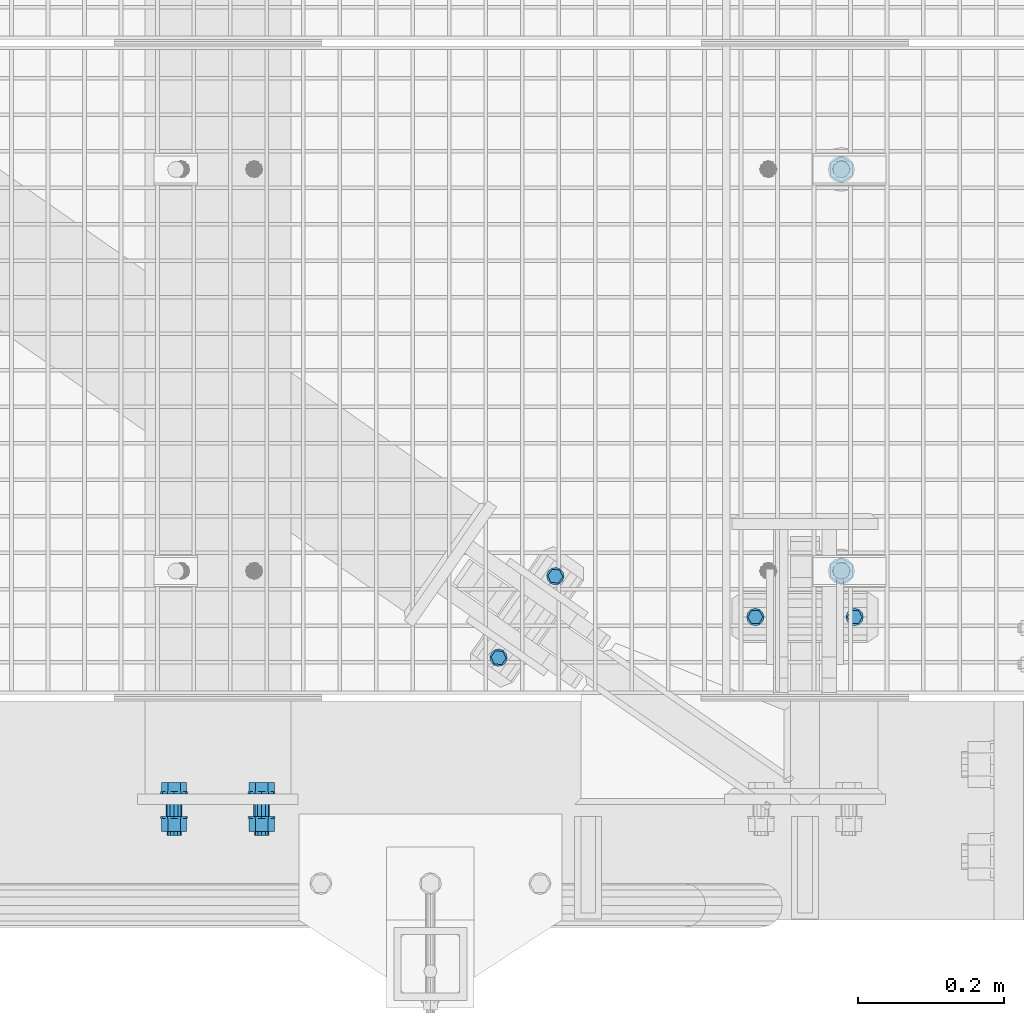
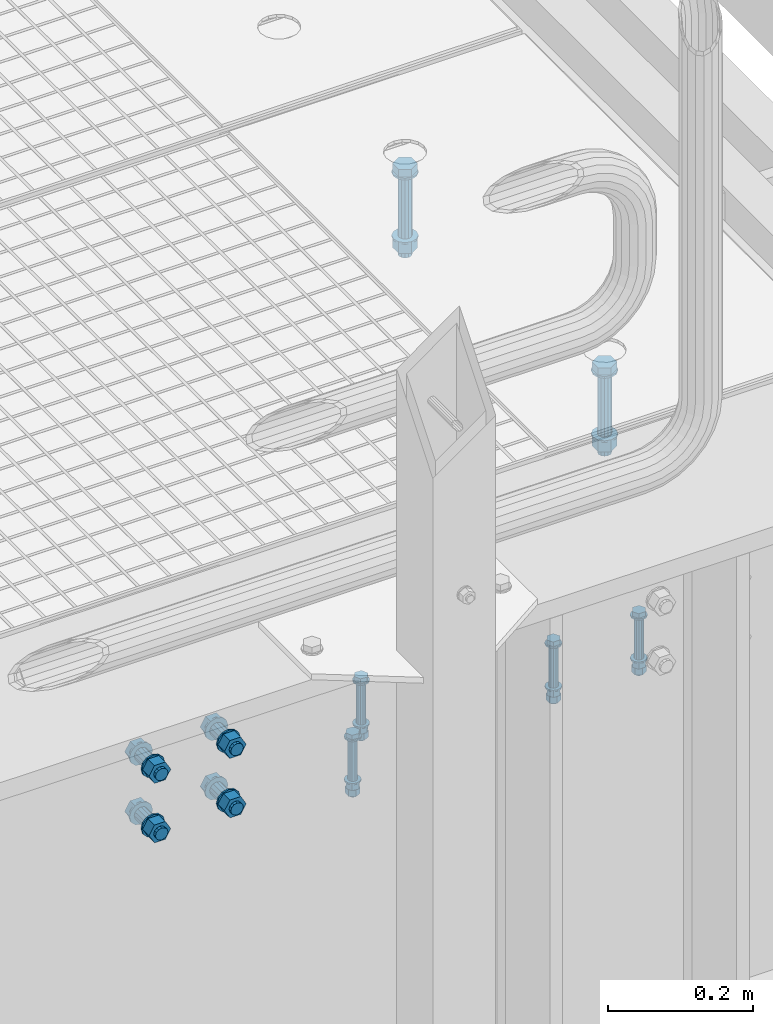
# One storey, part 49 of 1530: 4 mechanical fasteners.
"""IFC2X3 building model written with IfcOpenShell, lengths in millimetres."""

import ifcopenshell
import ifcopenshell.guid

model = None  # the IFC model being written
_history = None  # IfcOwnerHistory: only IFC2X3 demands one
_inside = {}  # id of a spatial element -> (the spatial element, [elements in it])
_under = {}  # id of a project, library or spatial element -> (it, [spatial elements below it])
_declared = {}  # id of a project -> (the project, [libraries it declares])
_typed = {}  # id of a type object -> (the type object, [elements of that type])
_made_of = {}  # id of a material, layer set ... -> (it, [elements and type objects made of it])


def new_model(schema):
    """Start an empty IFC model of exactly this schema.

    Asked for "IFC4X3", IfcOpenShell would pick the latest addendum, in which some entities
    have other attributes; the version numbers below select the first issue.
    IFC2X3 requires an IfcOwnerHistory on every rooted entity: one is made here for all.
    """
    global model, _history
    if schema == "IFC4X3":
        model = ifcopenshell.file(schema_version=(4, 3, 0, 0))
    else:
        model = ifcopenshell.file(schema=schema)
    _inside.clear()
    _under.clear()
    _declared.clear()
    _typed.clear()
    _made_of.clear()
    _history = None
    if model.schema == "IFC2X3":
        org = make("IfcOrganization", Name="unknown")
        user = make(
            "IfcPersonAndOrganization",
            ThePerson=make("IfcPerson", FamilyName="unknown"),
            TheOrganization=org,
        )
        app = make(
            "IfcApplication",
            ApplicationDeveloper=org,
            Version="unknown",
            ApplicationFullName="unknown",
            ApplicationIdentifier="unknown",
        )
        _history = make(
            "IfcOwnerHistory",
            OwningUser=user,
            OwningApplication=app,
            ChangeAction="ADDED",
            CreationDate=0,
        )
    return model


def make(cls, **values):
    """One entity of the class cls with the attributes given. An attribute that is None is left unset."""
    return model.create_entity(
        cls, **{name: value for name, value in values.items() if value is not None}
    )


def rooted(cls, **values):
    """An entity with a GlobalId (a new one), such as an element, a storey or a relation."""
    return make(cls, GlobalId=ifcopenshell.guid.new(), OwnerHistory=_history, **values)


def si_unit(unit_type, name, prefix=None):
    """IfcSIUnit, for example si_unit("LENGTHUNIT", "METRE", prefix="MILLI")."""
    return make("IfcSIUnit", UnitType=unit_type, Prefix=prefix, Name=name)


def assignment(units):
    """IfcUnitAssignment: the units of a project."""
    return None if units is None else make("IfcUnitAssignment", Units=units)


def point(xyz):
    """IfcCartesianPoint."""
    return None if xyz is None else make("IfcCartesianPoint", Coordinates=xyz)


def direction(xyz):
    """IfcDirection."""
    return None if xyz is None else make("IfcDirection", DirectionRatios=xyz)


def frame(location, z_axis=None, x_axis=None):
    """IfcAxis2Placement3D, a coordinate frame: its origin and axes. An axis left out is left unset."""
    return make(
        "IfcAxis2Placement3D",
        Location=point(location),
        Axis=direction(z_axis),
        RefDirection=direction(x_axis),
    )


def origin_with_axes():
    """The frame at (0, 0, 0) with the z axis (0, 0, 1) and the x axis (1, 0, 0) written out."""
    return frame((0.0, 0.0, 0.0), z_axis=(0.0, 0.0, 1.0), x_axis=(1.0, 0.0, 0.0))


def place(relative_to, where):
    """IfcLocalPlacement: puts the frame where relative to a parent placement (None: the world)."""
    return make(
        "IfcLocalPlacement", PlacementRelTo=relative_to, RelativePlacement=where
    )


def context(
    kind, dimensions, precision=None, world=None, true_north=None, identifier=None
):
    """IfcGeometricRepresentationContext, for example the 3D "Model" context."""
    return make(
        "IfcGeometricRepresentationContext",
        ContextIdentifier=identifier,
        ContextType=kind,
        CoordinateSpaceDimension=dimensions,
        Precision=precision,
        WorldCoordinateSystem=world,
        TrueNorth=true_north,
    )


def subcontext(parent, identifier, kind, view, scale=None):
    """IfcGeometricRepresentationSubContext, for example "Body" below "Model"."""
    return make(
        "IfcGeometricRepresentationSubContext",
        ContextIdentifier=identifier,
        ContextType=kind,
        ParentContext=parent,
        TargetScale=scale,
        TargetView=view,
    )


def project(units=None, contexts=None):
    """IfcProject with its units and contexts."""
    return rooted(
        "IfcProject",
        Name="project",
        RepresentationContexts=contexts,
        UnitsInContext=assignment(units),
    )


def spatial(cls, under=None, at=None, **own):
    """A site, building, storey or space (cls), placed at a placement, below another one or the project."""
    s = rooted(cls, ObjectPlacement=at, **own)
    if under is not None:
        _under.setdefault(under.id(), (under, []))[1].append(s)
    return s


def faces_of(points, faces, orient=None, outer=None):
    """IfcFace entities. A face is a list of loops; a loop is a list of indices into points, from 0.

    orient and outer hold one flag for each loop. By default every Orientation is true, the
    first loop of a face is its IfcFaceOuterBound and the others are IfcFaceBound.
    """
    made = []
    for i, loops in enumerate(faces):
        bounds = []
        for j, loop in enumerate(loops):
            is_outer = j == 0 if outer is None else outer[i][j]
            bounds.append(
                make(
                    "IfcFaceOuterBound" if is_outer else "IfcFaceBound",
                    Bound=make("IfcPolyLoop", Polygon=[points[k] for k in loop]),
                    Orientation=True if orient is None else orient[i][j],
                )
            )
        made.append(make("IfcFace", Bounds=bounds))
    return made


def faceted_brep(points, faces, orient=None, outer=None, voids=None):
    """IfcFacetedBrep: a solid bounded by flat faces; with voids (closed shells), ...WithVoids."""
    shared = [point(p) for p in points]
    hull = make("IfcClosedShell", CfsFaces=faces_of(shared, faces, orient, outer))
    if voids is None:
        return make("IfcFacetedBrep", Outer=hull)
    return make(
        "IfcFacetedBrepWithVoids",
        Outer=hull,
        Voids=[
            make(cls, CfsFaces=faces_of(shared, fs, o, b)) for cls, fs, o, b in voids
        ],
    )


def shape(context_of_items, identifier, shape_type, items):
    """IfcShapeRepresentation: the items that make up one representation, for example the "Body"."""
    return make(
        "IfcShapeRepresentation",
        ContextOfItems=context_of_items,
        RepresentationIdentifier=identifier,
        RepresentationType=shape_type,
        Items=items,
    )


def source(mapping_origin, context_of_items, identifier, shape_type, items):
    """IfcRepresentationMap: a shape defined once, which mapped items show again and again."""
    return make(
        "IfcRepresentationMap",
        MappingOrigin=mapping_origin,
        MappedRepresentation=shape(context_of_items, identifier, shape_type, items),
    )


def transform(
    local_origin,
    x_axis=None,
    y_axis=None,
    z_axis=None,
    scale=None,
    scale2=None,
    scale3=None,
    uniform=True,
):
    """IfcCartesianTransformationOperator3D, or its non-uniform kind. x_axis, y_axis, z_axis: its Axis1, 2, 3."""
    if uniform:
        return make(
            "IfcCartesianTransformationOperator3D",
            Axis1=direction(x_axis),
            Axis2=direction(y_axis),
            LocalOrigin=point(local_origin),
            Scale=scale,
            Axis3=direction(z_axis),
        )
    return make(
        "IfcCartesianTransformationOperator3DnonUniform",
        Axis1=direction(x_axis),
        Axis2=direction(y_axis),
        LocalOrigin=point(local_origin),
        Scale=scale,
        Axis3=direction(z_axis),
        Scale2=scale2,
        Scale3=scale3,
    )


def mapped(mapping_source, mapping_target):
    """IfcMappedItem: shows the shape of a source again, moved by a transform."""
    return make(
        "IfcMappedItem", MappingSource=mapping_source, MappingTarget=mapping_target
    )


def material(Name=None, Category=None):
    """IfcMaterial."""
    return make("IfcMaterial", Name=Name, Category=Category)


def made_of(thing, what):
    """Note that an element or type object is made of a material, layer set ...; save() writes the relation."""
    if what is not None:
        _made_of.setdefault(what.id(), (what, []))[1].append(thing)
    return thing


def type_object(cls, material=None, **own):
    """A type object (cls), such as IfcWallType, which elements share."""
    return made_of(rooted(cls, **own), material)


def element(
    cls,
    number,
    at=None,
    inside=None,
    cuts=None,
    type_object=None,
    material=None,
    context=None,
    identifier="Body",
    shape_type=None,
    held_by="IfcProductDefinitionShape",
    body=None,
    shapes=None,
    **own,
):
    """One element of the class cls, such as IfcWall. Its Tag is "e" and its number.

    at: its placement. inside: the storey or other place that contains it. cuts: it is an
    opening in that element (IfcRelVoidsElement). A single representation is given by context,
    identifier, shape_type and body (its items); several are given by shapes. held_by: the class
    of the entity that holds the representations. save() writes the other relations.
    """
    e = rooted(cls, Tag="e%d" % number, ObjectPlacement=at, **own)
    if body is not None:
        shapes = [shape(context, identifier, shape_type, body)]
    if shapes is not None:
        e.Representation = make(held_by, Representations=shapes)
    if inside is not None:
        _inside.setdefault(inside.id(), (inside, []))[1].append(e)
    if cuts is not None:
        rooted(
            "IfcRelVoidsElement", RelatingBuildingElement=cuts, RelatedOpeningElement=e
        )
    if type_object is not None:
        _typed.setdefault(type_object.id(), (type_object, []))[1].append(e)
    return made_of(e, material)


def aggregate(whole, parts):
    """IfcRelAggregates: a whole, such as a stair, and the parts it consists of."""
    return rooted("IfcRelAggregates", RelatingObject=whole, RelatedObjects=parts)


def save(model, path):
    """Write the relations noted so far, then the file.

    IfcRelAggregates (storeys below a building ...), IfcRelContainedInSpatialStructure (elements
    in a storey), IfcRelDefinesByType, IfcRelAssociatesMaterial and IfcRelDeclares: one each for
    every whole, place, type object, material and project.
    """
    for whole, parts in _under.values():
        aggregate(whole, parts)
    for where, things in _inside.values():
        rooted(
            "IfcRelContainedInSpatialStructure",
            RelatedElements=things,
            RelatingStructure=where,
        )
    for kind, things in _typed.values():
        rooted("IfcRelDefinesByType", RelatedObjects=things, RelatingType=kind)
    for what, things in _made_of.values():
        rooted("IfcRelAssociatesMaterial", RelatedObjects=things, RelatingMaterial=what)
    for by, libraries in _declared.values():
        rooted("IfcRelDeclares", RelatingContext=by, RelatedDefinitions=libraries)
    model.write(path)


model = new_model("IFC2X3")

# Units and contexts
model_context = context("Model", 3, precision=1e-05, world=origin_with_axes())
body_context = subcontext(model_context, "Body", "Model", "MODEL_VIEW")
ifc_project = project(units=[si_unit("LENGTHUNIT", "METRE", prefix="MILLI"), si_unit("AREAUNIT", "SQUARE_METRE"), si_unit("VOLUMEUNIT", "CUBIC_METRE"), si_unit("MASSUNIT", "GRAM", prefix="KILO"), si_unit("TIMEUNIT", "SECOND"), si_unit("PLANEANGLEUNIT", "RADIAN"), si_unit("SOLIDANGLEUNIT", "STERADIAN"), si_unit("THERMODYNAMICTEMPERATUREUNIT", "DEGREE_CELSIUS"), si_unit("LUMINOUSINTENSITYUNIT", "LUMEN")], contexts=[model_context])

# Site, building, storey
site_placement = place(None, origin_with_axes())
site = spatial("IfcSite", under=ifc_project, at=site_placement, Name="Brattvåg", CompositionType="ELEMENT")
building_placement = place(site_placement, origin_with_axes())
building = spatial("IfcBuilding", under=site, at=building_placement, Name="Undefined", CompositionType="ELEMENT")
storey_placement = place(building_placement, origin_with_axes())
storey = spatial("IfcBuildingStorey", under=building, at=storey_placement, Name="Undefined", CompositionType="ELEMENT", Elevation=0.0)

# Mechanical fasteners
ifc_material = material(Name="8")
mechanical_fastener_type = type_object("IfcMechanicalFastenerType", Name="Bolt assembly")
shared_shape_1 = source(origin_with_axes(), body_context, "Body", "Brep", [
    faceted_brep([(10.3923048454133, -9.99999999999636, 0.0), (5.19615242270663, -9.99999999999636, 9.0), (-5.19615242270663, -9.99999999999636, 9.0), (-10.3923048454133, -9.99999999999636, 1.27269028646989e-15), (-5.19615242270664, -9.99999999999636, -9.0), (5.19615242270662, -9.99999999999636, -9.0), (5.19615242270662, -2.49999999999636, -9.0), (-5.19615242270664, -2.49999999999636, -9.0), (-10.3923048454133, -2.49999999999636, 1.27269028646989e-15), (-5.19615242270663, -2.49999999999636, 9.0), (5.19615242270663, -2.49999999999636, 9.0), (10.3923048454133, -2.49999999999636, 0.0), (6.0, -2.49999999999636, 0.0), (5.19615242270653, -2.49999999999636, 3.00000000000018), (2.99999999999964, -2.49999999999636, 5.19615242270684), (-6.21801588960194e-13, -2.49999999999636, 6.0), (-3.00000000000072, -2.49999999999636, 5.19615242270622), (-5.19615242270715, -2.49999999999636, 2.9999999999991), (-6.0, -2.49999999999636, -1.24360317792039e-12), (-5.19615242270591, -2.49999999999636, -3.00000000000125), (-2.99999999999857, -2.49999999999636, -5.19615242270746), (1.85874342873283e-12, -2.49999999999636, -6.0), (3.00000000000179, -2.49999999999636, -5.1961524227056), (5.19615242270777, -2.49999999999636, -2.99999999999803), (5.19615242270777, 97.4999999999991, -2.99999999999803), (3.00000000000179, 97.4999999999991, -5.1961524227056), (1.85874342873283e-12, 97.4999999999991, -6.0), (-2.99999999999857, 97.4999999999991, -5.19615242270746), (-5.19615242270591, 97.4999999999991, -3.00000000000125), (-6.0, 97.4999999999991, -1.24360317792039e-12), (-5.19615242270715, 97.4999999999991, 2.9999999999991), (-3.00000000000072, 97.4999999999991, 5.19615242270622), (-6.21801588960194e-13, 97.4999999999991, 6.0), (2.99999999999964, 97.4999999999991, 5.19615242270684), (5.19615242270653, 97.4999999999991, 3.00000000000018), (6.0, 97.4999999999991, 0.0), (12.0, -2.49999999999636, 0.0), (10.3923048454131, -2.49999999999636, 6.00000000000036), (5.99999999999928, -2.49999999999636, 10.3923048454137), (-1.24360317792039e-12, -2.49999999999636, 12.0), (-6.00000000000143, -2.49999999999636, 10.3923048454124), (-10.3923048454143, -2.49999999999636, 5.99999999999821), (-12.0, -2.49999999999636, -2.48720635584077e-12), (-10.3923048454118, -2.49999999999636, -6.00000000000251), (-5.99999999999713, -2.49999999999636, -10.3923048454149), (3.71748685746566e-12, -2.49999999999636, -12.0), (6.00000000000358, -2.49999999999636, -10.3923048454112), (10.3923048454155, -2.49999999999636, -5.99999999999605), (10.3923048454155, 3.63797880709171e-12, -5.99999999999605), (6.00000000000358, 3.63797880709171e-12, -10.3923048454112), (3.71748685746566e-12, 3.63797880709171e-12, -12.0), (-5.99999999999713, 3.63797880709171e-12, -10.3923048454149), (-10.3923048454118, 3.63797880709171e-12, -6.00000000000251), (-12.0, 3.63797880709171e-12, -2.48720635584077e-12), (-10.3923048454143, 3.63797880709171e-12, 5.99999999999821), (-6.00000000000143, 3.63797880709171e-12, 10.3923048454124), (-1.24360317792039e-12, 3.63797880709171e-12, 12.0), (5.99999999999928, 3.63797880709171e-12, 10.3923048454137), (10.3923048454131, 3.63797880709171e-12, 6.00000000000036), (12.0, 3.63797880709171e-12, 0.0), (12.0, 69.9999999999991, 0.0), (10.3923048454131, 69.9999999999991, 6.00000000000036), (5.99999999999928, 69.9999999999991, 10.3923048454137), (-1.24360317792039e-12, 69.9999999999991, 12.0), (-6.00000000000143, 69.9999999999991, 10.3923048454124), (-10.3923048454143, 69.9999999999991, 5.99999999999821), (-12.0, 69.9999999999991, -2.48720635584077e-12), (-10.3923048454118, 69.9999999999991, -6.00000000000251), (-5.99999999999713, 69.9999999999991, -10.3923048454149), (3.71748685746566e-12, 69.9999999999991, -12.0), (6.00000000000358, 69.9999999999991, -10.3923048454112), (10.3923048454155, 69.9999999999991, -5.99999999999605), (10.3923048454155, 72.4999999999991, -5.99999999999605), (6.00000000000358, 72.4999999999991, -10.3923048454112), (3.71748685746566e-12, 72.4999999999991, -12.0), (-5.99999999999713, 72.4999999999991, -10.3923048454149), (-10.3923048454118, 72.4999999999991, -6.00000000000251), (-12.0, 72.4999999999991, -2.48720635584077e-12), (-10.3923048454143, 72.4999999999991, 5.99999999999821), (-6.00000000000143, 72.4999999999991, 10.3923048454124), (-1.24360317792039e-12, 72.4999999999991, 12.0), (5.99999999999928, 72.4999999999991, 10.3923048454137), (10.3923048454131, 72.4999999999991, 6.00000000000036), (12.0, 72.4999999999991, 0.0), (10.3923048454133, 72.4999999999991, 0.0), (5.19615242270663, 72.4999999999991, 9.0), (-5.19615242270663, 72.4999999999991, 9.0), (-10.3923048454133, 72.4999999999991, 1.27269028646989e-15), (-5.19615242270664, 72.4999999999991, -9.0), (5.19615242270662, 72.4999999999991, -9.0), (5.19615242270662, 83.300000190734, -9.0), (-5.19615242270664, 83.300000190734, -9.0), (-10.3923048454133, 83.300000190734, 1.27269028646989e-15), (-5.19615242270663, 83.300000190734, 9.0), (5.19615242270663, 83.300000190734, 9.0), (10.3923048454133, 83.300000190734, 0.0), (9.0, 83.300000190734, 5.19615242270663), (6.36345143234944e-16, 83.300000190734, 10.3923048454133), (-9.0, 83.300000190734, 5.19615242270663), (-9.0, 83.300000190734, -5.19615242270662), (-1.11392563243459e-14, 83.300000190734, -10.3923048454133), (8.99999999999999, 83.300000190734, -5.19615242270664), (8.99999999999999, 94.1000003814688, -5.19615242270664), (-1.11392563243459e-14, 94.1000003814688, -10.3923048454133), (-9.0, 94.1000003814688, -5.19615242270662), (-9.0, 94.1000003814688, 5.19615242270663), (6.36345143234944e-16, 94.1000003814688, 10.3923048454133), (9.0, 94.1000003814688, 5.19615242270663)], [[[0, 1, 2, 3, 4, 5]], [[6, 7, 8, 9, 10, 11]], [[0, 11, 10, 1]], [[1, 10, 9, 2]], [[2, 9, 8, 3]], [[3, 8, 7, 4]], [[4, 7, 6, 5]], [[5, 6, 11, 0]], [[12, 13, 14, 15, 16, 17, 18, 19, 20, 21, 22, 23]], [[24, 25, 26, 27, 28, 29, 30, 31, 32, 33, 34, 35]], [[12, 35, 34, 13]], [[13, 34, 33, 14]], [[14, 33, 32, 15]], [[15, 32, 31, 16]], [[16, 31, 30, 17]], [[17, 30, 29, 18]], [[18, 29, 28, 19]], [[19, 28, 27, 20]], [[20, 27, 26, 21]], [[21, 26, 25, 22]], [[22, 25, 24, 23]], [[23, 24, 35, 12]], [[36, 37, 38, 39, 40, 41, 42, 43, 44, 45, 46, 47]], [[48, 49, 50, 51, 52, 53, 54, 55, 56, 57, 58, 59]], [[36, 59, 58, 37]], [[37, 58, 57, 38]], [[38, 57, 56, 39]], [[39, 56, 55, 40]], [[40, 55, 54, 41]], [[41, 54, 53, 42]], [[42, 53, 52, 43]], [[43, 52, 51, 44]], [[44, 51, 50, 45]], [[45, 50, 49, 46]], [[46, 49, 48, 47]], [[47, 48, 59, 36]], [[60, 61, 62, 63, 64, 65, 66, 67, 68, 69, 70, 71]], [[72, 73, 74, 75, 76, 77, 78, 79, 80, 81, 82, 83]], [[60, 83, 82, 61]], [[61, 82, 81, 62]], [[62, 81, 80, 63]], [[63, 80, 79, 64]], [[64, 79, 78, 65]], [[65, 78, 77, 66]], [[66, 77, 76, 67]], [[67, 76, 75, 68]], [[68, 75, 74, 69]], [[69, 74, 73, 70]], [[70, 73, 72, 71]], [[71, 72, 83, 60]], [[84, 85, 86, 87, 88, 89]], [[90, 91, 92, 93, 94, 95]], [[84, 95, 94, 85]], [[85, 94, 93, 86]], [[86, 93, 92, 87]], [[87, 92, 91, 88]], [[88, 91, 90, 89]], [[89, 90, 95, 84]], [[96, 97, 98, 99, 100, 101]], [[102, 103, 104, 105, 106, 107]], [[96, 107, 106, 97]], [[97, 106, 105, 98]], [[98, 105, 104, 99]], [[99, 104, 103, 100]], [[100, 103, 102, 101]], [[101, 102, 107, 96]]]),
    faceted_brep([(7.0, -9.09494701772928e-13, 0.0), (6.06217782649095, -9.09494701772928e-13, 3.50000000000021), (3.49999999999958, -9.09494701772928e-13, 6.06217782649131), (-7.25435187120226e-13, -9.09494701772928e-13, 7.0), (-3.50000000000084, -9.09494701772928e-13, 6.06217782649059), (-6.06217782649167, -9.09494701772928e-13, 3.49999999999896), (-7.0, -9.09494701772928e-13, -1.45087037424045e-12), (-6.06217782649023, -9.09494701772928e-13, -3.50000000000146), (-3.49999999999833, -9.09494701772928e-13, -6.06217782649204), (2.1685340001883e-12, -9.09494701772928e-13, -7.0), (3.50000000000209, -9.09494701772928e-13, -6.06217782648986), (6.0621778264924, -9.09494701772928e-13, -3.4999999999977), (6.0621778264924, 70.0999999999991, -3.4999999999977), (3.50000000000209, 70.0999999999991, -6.06217782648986), (2.1685340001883e-12, 70.0999999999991, -7.0), (-3.49999999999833, 70.0999999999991, -6.06217782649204), (-6.06217782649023, 70.0999999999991, -3.50000000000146), (-7.0, 70.0999999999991, -1.45087037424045e-12), (-6.06217782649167, 70.0999999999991, 3.49999999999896), (-3.50000000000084, 70.0999999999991, 6.06217782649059), (-7.25435187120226e-13, 70.0999999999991, 7.0), (3.49999999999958, 70.0999999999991, 6.06217782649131), (6.06217782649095, 70.0999999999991, 3.50000000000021), (7.0, 70.0999999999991, 0.0)], [[[0, 1, 2, 3, 4, 5, 6, 7, 8, 9, 10, 11]], [[12, 13, 14, 15, 16, 17, 18, 19, 20, 21, 22, 23]], [[0, 23, 22, 1]], [[1, 22, 21, 2]], [[2, 21, 20, 3]], [[3, 20, 19, 4]], [[4, 19, 18, 5]], [[5, 18, 17, 6]], [[6, 17, 16, 7]], [[7, 16, 15, 8]], [[8, 15, 14, 9]], [[9, 14, 13, 10]], [[10, 13, 12, 11]], [[11, 12, 23, 0]]]),
])
for number, where, z_axis, x_axis, name in (
    (1, (16216.0824879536, 320.959108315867, -410.000000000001), (0.820625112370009, -0.571466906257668, 0.0), (-0.571466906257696, -0.820625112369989, 0.0), "Bolt assembly"),
    (2, (16625.9991363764, 265.004123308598, -410.000000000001), (0.0, -1.0, 0.0), (-1.0, 1.99999855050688e-09, 0.0), "Bolt assembly"),
):
    element("IfcMechanicalFastener", number, at=place(storey_placement, frame(where, z_axis=z_axis, x_axis=x_axis)), inside=storey, type_object=mechanical_fastener_type, material=ifc_material, Name=name, NominalDiameter=12.0, NominalLength=100.0, context=body_context, shape_type="MappedRepresentation", body=[
        mapped(shared_shape_1, transform((0.0, 0.0, 0.0))),
        mapped(shared_shape_1, transform((136.0, 0.0, 0.0))),
    ])
shared_shape_2 = source(origin_with_axes(), body_context, "Body", "Brep", [
    faceted_brep([(17.3205080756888, -10.5, 0.0), (8.66025403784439, -10.5, 15.0), (-8.66025403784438, -10.5, 15.0), (-17.3205080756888, -10.5, 2.12115047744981e-15), (-8.66025403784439, -10.5, -15.0), (8.66025403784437, -10.5, -15.0), (8.66025403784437, 2.0, -15.0), (-8.66025403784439, 2.0, -15.0), (-17.3205080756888, 2.0, 2.12115047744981e-15), (-8.66025403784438, 2.0, 15.0), (8.66025403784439, 2.0, 15.0), (17.3205080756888, 2.0, 0.0), (10.0, 2.0, 0.0), (8.66025403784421, 2.0, 5.0000000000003), (4.9999999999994, 2.0, 8.66025403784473), (-1.03633598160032e-12, 2.0, 10.0), (-5.00000000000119, 2.0, 8.6602540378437), (-8.66025403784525, 2.0, 4.99999999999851), (-10.0, 2.0, -2.07267196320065e-12), (-8.66025403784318, 2.0, -5.00000000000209), (-4.99999999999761, 2.0, -8.66025403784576), (3.09790571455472e-12, 2.0, -10.0), (5.00000000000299, 2.0, -8.66025403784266), (8.66025403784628, 2.0, -4.99999999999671), (8.66025403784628, 142.0, -4.99999999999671), (5.00000000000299, 142.0, -8.66025403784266), (3.09790571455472e-12, 142.0, -10.0), (-4.99999999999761, 142.0, -8.66025403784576), (-8.66025403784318, 142.0, -5.00000000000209), (-10.0, 142.0, -2.07267196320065e-12), (-8.66025403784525, 142.0, 4.99999999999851), (-5.00000000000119, 142.0, 8.6602540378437), (-1.03633598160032e-12, 142.0, 10.0), (4.9999999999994, 142.0, 8.66025403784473), (8.66025403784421, 142.0, 5.0000000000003), (10.0, 142.0, 0.0), (18.5, 2.0, 0.0), (16.0214699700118, 2.0, 9.25000000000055), (9.2499999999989, 2.0, 16.0214699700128), (-1.9172215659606e-12, 2.0, 18.5), (-9.25000000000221, 2.0, 16.0214699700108), (-16.0214699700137, 2.0, 9.24999999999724), (-18.5, 2.0, -3.83444313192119e-12), (-16.0214699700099, 2.0, -9.25000000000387), (-9.24999999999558, 2.0, -16.0214699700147), (5.73112557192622e-12, 2.0, -18.5), (9.25000000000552, 2.0, -16.0214699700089), (16.0214699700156, 2.0, -9.24999999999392), (16.0214699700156, 5.0, -9.24999999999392), (9.25000000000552, 5.0, -16.0214699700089), (5.73112557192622e-12, 5.0, -18.5), (-9.24999999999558, 5.0, -16.0214699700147), (-16.0214699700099, 5.0, -9.25000000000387), (-18.5, 5.0, -3.83444313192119e-12), (-16.0214699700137, 5.0, 9.24999999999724), (-9.25000000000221, 5.0, 16.0214699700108), (-1.9172215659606e-12, 5.0, 18.5), (9.2499999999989, 5.0, 16.0214699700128), (16.0214699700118, 5.0, 9.25000000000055), (18.5, 5.0, 0.0), (18.5, 109.998931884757, 0.0), (16.0214699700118, 109.998931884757, 9.25000000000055), (9.2499999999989, 109.998931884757, 16.0214699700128), (-1.9172215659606e-12, 109.998931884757, 18.5), (-9.25000000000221, 109.998931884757, 16.0214699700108), (-16.0214699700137, 109.998931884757, 9.24999999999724), (-18.5, 109.998931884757, -3.83444313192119e-12), (-16.0214699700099, 109.998931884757, -9.25000000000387), (-9.24999999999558, 109.998931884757, -16.0214699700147), (5.73112557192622e-12, 109.998931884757, -18.5), (9.25000000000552, 109.998931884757, -16.0214699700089), (16.0214699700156, 109.998931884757, -9.24999999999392), (16.0214699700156, 112.998931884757, -9.24999999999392), (9.25000000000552, 112.998931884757, -16.0214699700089), (5.73112557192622e-12, 112.998931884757, -18.5), (-9.24999999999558, 112.998931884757, -16.0214699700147), (-16.0214699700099, 112.998931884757, -9.25000000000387), (-18.5, 112.998931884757, -3.83444313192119e-12), (-16.0214699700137, 112.998931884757, 9.24999999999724), (-9.25000000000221, 112.998931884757, 16.0214699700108), (-1.9172215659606e-12, 112.998931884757, 18.5), (9.2499999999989, 112.998931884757, 16.0214699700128), (16.0214699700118, 112.998931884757, 9.25000000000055), (18.5, 112.998931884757, 0.0), (17.3205080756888, 112.998931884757, 0.0), (8.66025403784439, 112.998931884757, 15.0), (-8.66025403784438, 112.998931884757, 15.0), (-17.3205080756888, 112.998931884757, 2.12115047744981e-15), (-8.66025403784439, 112.998931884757, -15.0), (8.66025403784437, 112.998931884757, -15.0), (8.66025403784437, 130.998931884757, -15.0), (-8.66025403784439, 130.998931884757, -15.0), (-17.3205080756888, 130.998931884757, 2.12115047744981e-15), (-8.66025403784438, 130.998931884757, 15.0), (8.66025403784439, 130.998931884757, 15.0), (17.3205080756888, 130.998931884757, 0.0)], [[[0, 1, 2, 3, 4, 5]], [[6, 7, 8, 9, 10, 11]], [[0, 11, 10, 1]], [[1, 10, 9, 2]], [[2, 9, 8, 3]], [[3, 8, 7, 4]], [[4, 7, 6, 5]], [[5, 6, 11, 0]], [[12, 13, 14, 15, 16, 17, 18, 19, 20, 21, 22, 23]], [[24, 25, 26, 27, 28, 29, 30, 31, 32, 33, 34, 35]], [[12, 35, 34, 13]], [[13, 34, 33, 14]], [[14, 33, 32, 15]], [[15, 32, 31, 16]], [[16, 31, 30, 17]], [[17, 30, 29, 18]], [[18, 29, 28, 19]], [[19, 28, 27, 20]], [[20, 27, 26, 21]], [[21, 26, 25, 22]], [[22, 25, 24, 23]], [[23, 24, 35, 12]], [[36, 37, 38, 39, 40, 41, 42, 43, 44, 45, 46, 47]], [[48, 49, 50, 51, 52, 53, 54, 55, 56, 57, 58, 59]], [[36, 59, 58, 37]], [[37, 58, 57, 38]], [[38, 57, 56, 39]], [[39, 56, 55, 40]], [[40, 55, 54, 41]], [[41, 54, 53, 42]], [[42, 53, 52, 43]], [[43, 52, 51, 44]], [[44, 51, 50, 45]], [[45, 50, 49, 46]], [[46, 49, 48, 47]], [[47, 48, 59, 36]], [[60, 61, 62, 63, 64, 65, 66, 67, 68, 69, 70, 71]], [[72, 73, 74, 75, 76, 77, 78, 79, 80, 81, 82, 83]], [[60, 83, 82, 61]], [[61, 82, 81, 62]], [[62, 81, 80, 63]], [[63, 80, 79, 64]], [[64, 79, 78, 65]], [[65, 78, 77, 66]], [[66, 77, 76, 67]], [[67, 76, 75, 68]], [[68, 75, 74, 69]], [[69, 74, 73, 70]], [[70, 73, 72, 71]], [[71, 72, 83, 60]], [[84, 85, 86, 87, 88, 89]], [[90, 91, 92, 93, 94, 95]], [[84, 95, 94, 85]], [[85, 94, 93, 86]], [[86, 93, 92, 87]], [[87, 92, 91, 88]], [[88, 91, 90, 89]], [[89, 90, 95, 84]]]),
])
mechanical_fastener_1_placement = place(storey_placement, frame((16607.7533454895, 328.001182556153, -25.0), z_axis=(-1.0, 1.99999855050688e-09, 0.0), x_axis=(0.0, 1.0, 0.0)))
element("IfcMechanicalFastener", 3, at=mechanical_fastener_1_placement, inside=storey, type_object=mechanical_fastener_type, material=ifc_material, Name="Bolt assembly", NominalDiameter=20.0, NominalLength=140.0, context=body_context, shape_type="MappedRepresentation", body=[
    mapped(shared_shape_2, transform((0.0, 0.0, 0.0))),
    mapped(shared_shape_2, transform((549.999999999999, 0.0, 0.0))),
])
shared_shape_3 = source(origin_with_axes(), body_context, "Body", "Brep", [
    faceted_brep([(17.3205080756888, -15.5000000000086, 0.0), (8.66025403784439, -15.5000000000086, 15.0), (-8.66025403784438, -15.5000000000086, 15.0), (-17.3205080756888, -15.5000000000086, 2.12115047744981e-15), (-8.66025403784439, -15.5000000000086, -15.0), (8.66025403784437, -15.5000000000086, -15.0), (8.66025403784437, -3.00000000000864, -15.0), (-8.66025403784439, -3.00000000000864, -15.0), (-17.3205080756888, -3.00000000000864, 2.12115047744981e-15), (-8.66025403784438, -3.00000000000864, 15.0), (8.66025403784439, -3.00000000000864, 15.0), (17.3205080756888, -3.00000000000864, 0.0), (10.0, -3.00000000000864, 0.0), (8.66025403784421, -3.00000000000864, 5.0000000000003), (4.9999999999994, -3.00000000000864, 8.66025403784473), (-1.03633598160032e-12, -3.00000000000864, 10.0), (-5.00000000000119, -3.00000000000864, 8.6602540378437), (-8.66025403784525, -3.00000000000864, 4.99999999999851), (-10.0, -3.00000000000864, -2.07267196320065e-12), (-8.66025403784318, -3.00000000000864, -5.00000000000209), (-4.99999999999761, -3.00000000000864, -8.66025403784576), (3.09790571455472e-12, -3.00000000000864, -10.0), (5.00000000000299, -3.00000000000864, -8.66025403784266), (8.66025403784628, -3.00000000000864, -4.99999999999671), (8.66025403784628, 57.0, -4.99999999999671), (5.00000000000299, 57.0, -8.66025403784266), (3.09790571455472e-12, 57.0, -10.0), (-4.99999999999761, 57.0, -8.66025403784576), (-8.66025403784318, 57.0, -5.00000000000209), (-10.0, 57.0, -2.07267196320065e-12), (-8.66025403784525, 57.0, 4.99999999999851), (-5.00000000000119, 57.0, 8.6602540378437), (-1.03633598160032e-12, 57.0, 10.0), (4.9999999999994, 57.0, 8.66025403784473), (8.66025403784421, 57.0, 5.0000000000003), (10.0, 57.0, 0.0), (18.5, -3.00000000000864, 0.0), (16.0214699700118, -3.00000000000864, 9.25000000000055), (9.2499999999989, -3.00000000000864, 16.0214699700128), (-1.9172215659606e-12, -3.00000000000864, 18.5), (-9.25000000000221, -3.00000000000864, 16.0214699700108), (-16.0214699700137, -3.00000000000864, 9.24999999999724), (-18.5, -3.00000000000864, -3.83444313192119e-12), (-16.0214699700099, -3.00000000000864, -9.25000000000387), (-9.24999999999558, -3.00000000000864, -16.0214699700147), (5.73112557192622e-12, -3.00000000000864, -18.5), (9.25000000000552, -3.00000000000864, -16.0214699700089), (16.0214699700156, -3.00000000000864, -9.24999999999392), (16.0214699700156, -8.64019966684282e-12, -9.24999999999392), (9.25000000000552, -8.64019966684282e-12, -16.0214699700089), (5.73112557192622e-12, -8.64019966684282e-12, -18.5), (-9.24999999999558, -8.64019966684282e-12, -16.0214699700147), (-16.0214699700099, -8.64019966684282e-12, -9.25000000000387), (-18.5, -8.64019966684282e-12, -3.83444313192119e-12), (-16.0214699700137, -8.64019966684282e-12, 9.24999999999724), (-9.25000000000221, -8.64019966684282e-12, 16.0214699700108), (-1.9172215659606e-12, -8.64019966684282e-12, 18.5), (9.2499999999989, -8.64019966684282e-12, 16.0214699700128), (16.0214699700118, -8.64019966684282e-12, 9.25000000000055), (18.5, -8.64019966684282e-12, 0.0), (18.5, 31.0015563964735, 0.0), (16.0214699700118, 31.0015563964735, 9.25000000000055), (9.2499999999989, 31.0015563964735, 16.0214699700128), (-1.9172215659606e-12, 31.0015563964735, 18.5), (-9.25000000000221, 31.0015563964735, 16.0214699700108), (-16.0214699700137, 31.0015563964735, 9.24999999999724), (-18.5, 31.0015563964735, -3.83444313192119e-12), (-16.0214699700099, 31.0015563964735, -9.25000000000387), (-9.24999999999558, 31.0015563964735, -16.0214699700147), (5.73112557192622e-12, 31.0015563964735, -18.5), (9.25000000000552, 31.0015563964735, -16.0214699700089), (16.0214699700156, 31.0015563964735, -9.24999999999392), (16.0214699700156, 34.0015563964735, -9.24999999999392), (9.25000000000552, 34.0015563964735, -16.0214699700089), (5.73112557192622e-12, 34.0015563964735, -18.5), (-9.24999999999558, 34.0015563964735, -16.0214699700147), (-16.0214699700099, 34.0015563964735, -9.25000000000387), (-18.5, 34.0015563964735, -3.83444313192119e-12), (-16.0214699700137, 34.0015563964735, 9.24999999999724), (-9.25000000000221, 34.0015563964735, 16.0214699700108), (-1.9172215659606e-12, 34.0015563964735, 18.5), (9.2499999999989, 34.0015563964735, 16.0214699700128), (16.0214699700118, 34.0015563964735, 9.25000000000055), (18.5, 34.0015563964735, 0.0), (17.3205080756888, 34.0015563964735, 0.0), (8.66025403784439, 34.0015563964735, 15.0), (-8.66025403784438, 34.0015563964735, 15.0), (-17.3205080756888, 34.0015563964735, 2.12115047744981e-15), (-8.66025403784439, 34.0015563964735, -15.0), (8.66025403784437, 34.0015563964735, -15.0), (8.66025403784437, 52.0015563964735, -15.0), (-8.66025403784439, 52.0015563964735, -15.0), (-17.3205080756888, 52.0015563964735, 2.12115047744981e-15), (-8.66025403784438, 52.0015563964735, 15.0), (8.66025403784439, 52.0015563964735, 15.0), (17.3205080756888, 52.0015563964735, 0.0)], [[[0, 1, 2, 3, 4, 5]], [[6, 7, 8, 9, 10, 11]], [[0, 11, 10, 1]], [[1, 10, 9, 2]], [[2, 9, 8, 3]], [[3, 8, 7, 4]], [[4, 7, 6, 5]], [[5, 6, 11, 0]], [[12, 13, 14, 15, 16, 17, 18, 19, 20, 21, 22, 23]], [[24, 25, 26, 27, 28, 29, 30, 31, 32, 33, 34, 35]], [[12, 35, 34, 13]], [[13, 34, 33, 14]], [[14, 33, 32, 15]], [[15, 32, 31, 16]], [[16, 31, 30, 17]], [[17, 30, 29, 18]], [[18, 29, 28, 19]], [[19, 28, 27, 20]], [[20, 27, 26, 21]], [[21, 26, 25, 22]], [[22, 25, 24, 23]], [[23, 24, 35, 12]], [[36, 37, 38, 39, 40, 41, 42, 43, 44, 45, 46, 47]], [[48, 49, 50, 51, 52, 53, 54, 55, 56, 57, 58, 59]], [[36, 59, 58, 37]], [[37, 58, 57, 38]], [[38, 57, 56, 39]], [[39, 56, 55, 40]], [[40, 55, 54, 41]], [[41, 54, 53, 42]], [[42, 53, 52, 43]], [[43, 52, 51, 44]], [[44, 51, 50, 45]], [[45, 50, 49, 46]], [[46, 49, 48, 47]], [[47, 48, 59, 36]], [[60, 61, 62, 63, 64, 65, 66, 67, 68, 69, 70, 71]], [[72, 73, 74, 75, 76, 77, 78, 79, 80, 81, 82, 83]], [[60, 83, 82, 61]], [[61, 82, 81, 62]], [[62, 81, 80, 63]], [[63, 80, 79, 64]], [[64, 79, 78, 65]], [[65, 78, 77, 66]], [[66, 77, 76, 67]], [[67, 76, 75, 68]], [[68, 75, 74, 69]], [[69, 74, 73, 70]], [[70, 73, 72, 71]], [[71, 72, 83, 60]], [[84, 85, 86, 87, 88, 89]], [[90, 91, 92, 93, 94, 95]], [[84, 95, 94, 85]], [[85, 94, 93, 86]], [[86, 93, 92, 87]], [[87, 92, 91, 88]], [[88, 91, 90, 89]], [[89, 90, 95, 84]]]),
    faceted_brep([(11.0, 0.1, 0.0), (9.52627944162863, 0.1, 5.50000000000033), (5.49999999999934, 0.1, 9.5262794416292), (-1.13996957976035e-12, 0.1, 11.0), (-5.50000000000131, 0.1, 9.52627944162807), (-9.52627944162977, 0.1, 5.49999999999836), (-11.0, 0.1, -2.27993915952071e-12), (-9.5262794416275, 0.1, -5.5000000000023), (-5.49999999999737, 0.1, -9.52627944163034), (3.40769628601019e-12, 0.1, -11.0), (5.50000000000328, 0.1, -9.52627944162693), (9.52627944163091, 0.1, -5.49999999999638), (9.52627944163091, 15.1, -5.49999999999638), (5.50000000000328, 15.1, -9.52627944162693), (3.40769628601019e-12, 15.1, -11.0), (-5.49999999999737, 15.1, -9.52627944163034), (-9.5262794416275, 15.1, -5.5000000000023), (-11.0, 15.1, -2.27993915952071e-12), (-9.52627944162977, 15.1, 5.49999999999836), (-5.50000000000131, 15.1, 9.52627944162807), (-1.13996957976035e-12, 15.1, 11.0), (5.49999999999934, 15.1, 9.5262794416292), (9.52627944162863, 15.1, 5.50000000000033), (11.0, 15.1, 0.0), (11.0, 14.9015563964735, 0.0), (9.52627944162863, 14.9015563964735, 5.50000000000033), (5.49999999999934, 14.9015563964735, 9.5262794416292), (-1.13996957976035e-12, 14.9015563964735, 11.0), (-5.50000000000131, 14.9015563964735, 9.52627944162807), (-9.52627944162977, 14.9015563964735, 5.49999999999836), (-11.0, 14.9015563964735, -2.27993915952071e-12), (-9.5262794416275, 14.9015563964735, -5.5000000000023), (-5.49999999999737, 14.9015563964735, -9.52627944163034), (3.40769628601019e-12, 14.9015563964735, -11.0), (5.50000000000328, 14.9015563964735, -9.52627944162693), (9.52627944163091, 14.9015563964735, -5.49999999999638), (9.52627944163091, 31.0015563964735, -5.49999999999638), (5.50000000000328, 31.0015563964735, -9.52627944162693), (3.40769628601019e-12, 31.0015563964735, -11.0), (-5.49999999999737, 31.0015563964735, -9.52627944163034), (-9.5262794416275, 31.0015563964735, -5.5000000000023), (-11.0, 31.0015563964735, -2.27993915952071e-12), (-9.52627944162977, 31.0015563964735, 5.49999999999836), (-5.50000000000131, 31.0015563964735, 9.52627944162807), (-1.13996957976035e-12, 31.0015563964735, 11.0), (5.49999999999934, 31.0015563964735, 9.5262794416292), (9.52627944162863, 31.0015563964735, 5.50000000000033), (11.0, 31.0015563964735, 0.0)], [[[0, 1, 2, 3, 4, 5, 6, 7, 8, 9, 10, 11]], [[12, 13, 14, 15, 16, 17, 18, 19, 20, 21, 22, 23]], [[0, 23, 22, 1]], [[1, 22, 21, 2]], [[2, 21, 20, 3]], [[3, 20, 19, 4]], [[4, 19, 18, 5]], [[5, 18, 17, 6]], [[6, 17, 16, 7]], [[7, 16, 15, 8]], [[8, 15, 14, 9]], [[9, 14, 13, 10]], [[10, 13, 12, 11]], [[11, 12, 23, 0]], [[24, 25, 26, 27, 28, 29, 30, 31, 32, 33, 34, 35]], [[36, 37, 38, 39, 40, 41, 42, 43, 44, 45, 46, 47]], [[24, 47, 46, 25]], [[25, 46, 45, 26]], [[26, 45, 44, 27]], [[27, 44, 43, 28]], [[28, 43, 42, 29]], [[29, 42, 41, 30]], [[30, 41, 40, 31]], [[31, 40, 39, 32]], [[32, 39, 38, 33]], [[33, 38, 37, 34]], [[34, 37, 36, 35]], [[35, 36, 47, 24]]]),
])
mechanical_fastener_2_placement = place(storey_placement, frame((15814.0019683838, 23.0015563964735, -219.998836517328), z_axis=(0.0, 0.0, 1.0), x_axis=(-1.0, 1.99999855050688e-09, 0.0)))
element("IfcMechanicalFastener", 4, at=mechanical_fastener_2_placement, inside=storey, type_object=mechanical_fastener_type, material=ifc_material, Name="Bolt assembly", NominalDiameter=20.0, NominalLength=60.0, context=body_context, shape_type="MappedRepresentation", body=[
    mapped(shared_shape_3, transform((0.0, 0.0, -50.0))),
    mapped(shared_shape_3, transform((120.0, 0.0, -50.0))),
    mapped(shared_shape_3, transform((0.0, 0.0, 50.0))),
    mapped(shared_shape_3, transform((120.0, 0.0, 50.0))),
])

save(model, "model.ifc")
